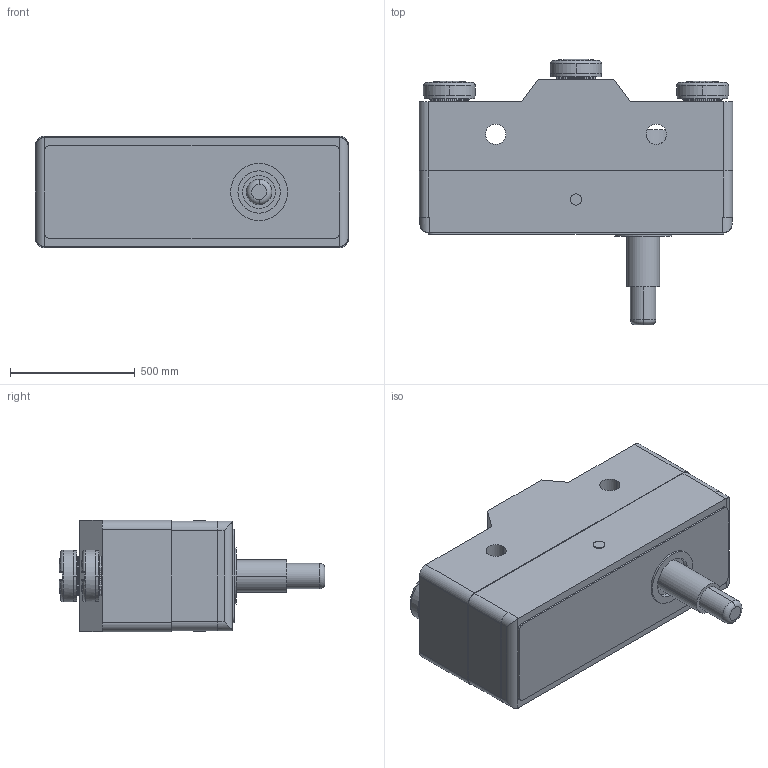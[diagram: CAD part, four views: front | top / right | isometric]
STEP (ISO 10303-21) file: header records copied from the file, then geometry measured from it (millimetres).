
FILE_DESCRIPTION((''),'2;1');
FILE_NAME('PRT0014','2016-08-15T',('ABS'),(''),'PRO/ENGINEER BY PARAMETRIC TECHNOLOGY CORPORATION, 2012360','PRO/ENGINEER BY PARAMETRIC TECHNOLOGY CORPORATION, 2012360','');
FILE_SCHEMA(('CONFIG_CONTROL_DESIGN'));
Length unit declared in the file: millimetre
Products named in the file (1): PRT0014
Bounding box: 1259.84 x 1066.46 x 447.04 mm (x, y, z)
Volume: 242180108.3 mm3; surface area: 6403658.3 mm2
Topology: 1 solids, 14 shells, 852 faces, 2435 edges, 1620 vertices
Faces by surface type: cylinder 513, plane 234, bspline 52, torus 38, sphere 15
Entity records: 34267 total; most frequent: CARTESIAN_POINT 12613, ORIENTED_EDGE 4852, DIRECTION 4179, EDGE_CURVE 2426, VERTEX_POINT 1620, AXIS2_PLACEMENT_3D 1584, VECTOR 1011, LINE 1011
